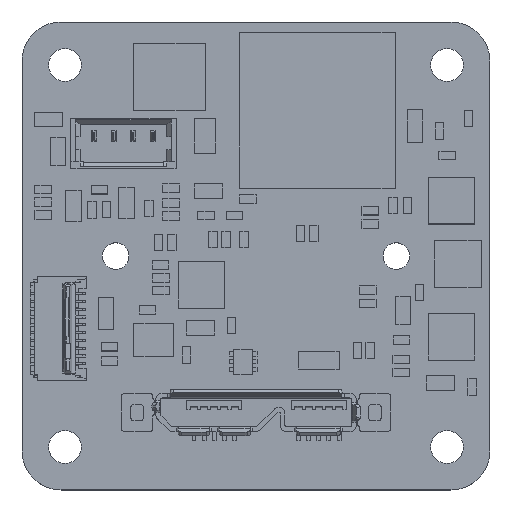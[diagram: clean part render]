
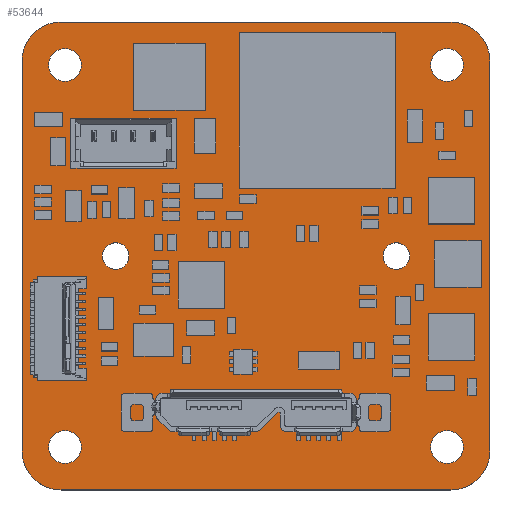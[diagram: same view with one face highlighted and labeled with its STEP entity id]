
A CAD part, top view. The second image highlights one B-rep face of the part: STEP entity #53644.
In plain terms, the highlighted planar face has unit normal (0, 0, 1).
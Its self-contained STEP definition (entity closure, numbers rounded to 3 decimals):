
#52849 = VERTEX_POINT('',#52850);
#52850 = CARTESIAN_POINT('',(0.,2.5,0.));
#52856 = EDGE_CURVE('',#52849,#52857,#52859,.T.);
#52857 = VERTEX_POINT('',#52858);
#52858 = CARTESIAN_POINT('',(2.5,0.,0.));
#52859 = CIRCLE('',#52860,2.499);
#52860 = AXIS2_PLACEMENT_3D('',#52861,#52862,#52863);
#52861 = CARTESIAN_POINT('',(2.499,2.499,0.));
#52862 = DIRECTION('',(0.,0.,1.));
#52863 = DIRECTION('',(-1.,0.,0.));
#52889 = EDGE_CURVE('',#52857,#52890,#52892,.T.);
#52890 = VERTEX_POINT('',#52891);
#52891 = CARTESIAN_POINT('',(27.5,0.,0.));
#52892 = LINE('',#52893,#52894);
#52893 = CARTESIAN_POINT('',(2.5,0.,0.));
#52894 = VECTOR('',#52895,1.);
#52895 = DIRECTION('',(1.,0.,0.));
#52920 = EDGE_CURVE('',#52890,#52921,#52923,.T.);
#52921 = VERTEX_POINT('',#52922);
#52922 = CARTESIAN_POINT('',(30.,2.5,0.));
#52923 = CIRCLE('',#52924,2.499);
#52924 = AXIS2_PLACEMENT_3D('',#52925,#52926,#52927);
#52925 = CARTESIAN_POINT('',(27.501,2.499,0.));
#52926 = DIRECTION('',(0.,0.,1.));
#52927 = DIRECTION('',(0.,-1.,0.));
#52953 = EDGE_CURVE('',#52921,#52954,#52956,.T.);
#52954 = VERTEX_POINT('',#52955);
#52955 = CARTESIAN_POINT('',(30.,27.5,0.));
#52956 = LINE('',#52957,#52958);
#52957 = CARTESIAN_POINT('',(30.,2.5,0.));
#52958 = VECTOR('',#52959,1.);
#52959 = DIRECTION('',(0.,1.,0.));
#52984 = EDGE_CURVE('',#52954,#52985,#52987,.T.);
#52985 = VERTEX_POINT('',#52986);
#52986 = CARTESIAN_POINT('',(27.5,30.,0.));
#52987 = CIRCLE('',#52988,2.499);
#52988 = AXIS2_PLACEMENT_3D('',#52989,#52990,#52991);
#52989 = CARTESIAN_POINT('',(27.501,27.501,0.));
#52990 = DIRECTION('',(0.,0.,1.));
#52991 = DIRECTION('',(1.,0.,0.));
#53017 = EDGE_CURVE('',#52985,#53018,#53020,.T.);
#53018 = VERTEX_POINT('',#53019);
#53019 = CARTESIAN_POINT('',(2.5,30.006,0.));
#53020 = LINE('',#53021,#53022);
#53021 = CARTESIAN_POINT('',(27.5,30.,0.));
#53022 = VECTOR('',#53023,1.);
#53023 = DIRECTION('',(-1.,0.,0.));
#53048 = EDGE_CURVE('',#53018,#53049,#53051,.T.);
#53049 = VERTEX_POINT('',#53050);
#53050 = CARTESIAN_POINT('',(0.,27.5,0.));
#53051 = CIRCLE('',#53052,2.496);
#53052 = AXIS2_PLACEMENT_3D('',#53053,#53054,#53055);
#53053 = CARTESIAN_POINT('',(2.496,27.51,0.));
#53054 = DIRECTION('',(0.,0.,1.));
#53055 = DIRECTION('',(0.002,1.,0.));
#53081 = EDGE_CURVE('',#53049,#52849,#53082,.T.);
#53082 = LINE('',#53083,#53084);
#53083 = CARTESIAN_POINT('',(0.,27.5,0.));
#53084 = VECTOR('',#53085,1.);
#53085 = DIRECTION('',(0.,-1.,0.));
#53105 = VERTEX_POINT('',#53106);
#53106 = CARTESIAN_POINT('',(3.8,2.75,0.));
#53112 = EDGE_CURVE('',#53105,#53105,#53113,.T.);
#53113 = CIRCLE('',#53114,1.05);
#53114 = AXIS2_PLACEMENT_3D('',#53115,#53116,#53117);
#53115 = CARTESIAN_POINT('',(2.75,2.75,0.));
#53116 = DIRECTION('',(0.,0.,1.));
#53117 = DIRECTION('',(1.,0.,0.));
#53138 = VERTEX_POINT('',#53139);
#53139 = CARTESIAN_POINT('',(6.85,15.,0.));
#53145 = EDGE_CURVE('',#53138,#53138,#53146,.T.);
#53146 = CIRCLE('',#53147,0.85);
#53147 = AXIS2_PLACEMENT_3D('',#53148,#53149,#53150);
#53148 = CARTESIAN_POINT('',(6.,15.,0.));
#53149 = DIRECTION('',(0.,0.,1.));
#53150 = DIRECTION('',(1.,0.,0.));
#53171 = VERTEX_POINT('',#53172);
#53172 = CARTESIAN_POINT('',(7.375,22.7,0.));
#53178 = EDGE_CURVE('',#53171,#53171,#53179,.T.);
#53179 = CIRCLE('',#53180,0.25);
#53180 = AXIS2_PLACEMENT_3D('',#53181,#53182,#53183);
#53181 = CARTESIAN_POINT('',(7.125,22.7,0.));
#53182 = DIRECTION('',(0.,0.,1.));
#53183 = DIRECTION('',(1.,0.,0.));
#53204 = VERTEX_POINT('',#53205);
#53205 = CARTESIAN_POINT('',(3.8,27.25,0.));
#53211 = EDGE_CURVE('',#53204,#53204,#53212,.T.);
#53212 = CIRCLE('',#53213,1.05);
#53213 = AXIS2_PLACEMENT_3D('',#53214,#53215,#53216);
#53214 = CARTESIAN_POINT('',(2.75,27.25,0.));
#53215 = DIRECTION('',(0.,0.,1.));
#53216 = DIRECTION('',(1.,0.,0.));
#53237 = VERTEX_POINT('',#53238);
#53238 = CARTESIAN_POINT('',(6.125,22.7,0.));
#53244 = EDGE_CURVE('',#53237,#53237,#53245,.T.);
#53245 = CIRCLE('',#53246,0.25);
#53246 = AXIS2_PLACEMENT_3D('',#53247,#53248,#53249);
#53247 = CARTESIAN_POINT('',(5.875,22.7,0.));
#53248 = DIRECTION('',(0.,0.,1.));
#53249 = DIRECTION('',(1.,0.,0.));
#53270 = VERTEX_POINT('',#53271);
#53271 = CARTESIAN_POINT('',(4.875,22.7,0.));
#53277 = EDGE_CURVE('',#53270,#53270,#53278,.T.);
#53278 = CIRCLE('',#53279,0.25);
#53279 = AXIS2_PLACEMENT_3D('',#53280,#53281,#53282);
#53280 = CARTESIAN_POINT('',(4.625,22.7,0.));
#53281 = DIRECTION('',(0.,0.,1.));
#53282 = DIRECTION('',(1.,0.,0.));
#53303 = VERTEX_POINT('',#53304);
#53304 = CARTESIAN_POINT('',(15.4,5.185,0.));
#53310 = EDGE_CURVE('',#53303,#53303,#53311,.T.);
#53311 = CIRCLE('',#53312,0.4);
#53312 = AXIS2_PLACEMENT_3D('',#53313,#53314,#53315);
#53313 = CARTESIAN_POINT('',(15.,5.185,0.));
#53314 = DIRECTION('',(0.,0.,1.));
#53315 = DIRECTION('',(1.,0.,0.));
#53336 = VERTEX_POINT('',#53337);
#53337 = CARTESIAN_POINT('',(28.3,2.75,0.));
#53343 = EDGE_CURVE('',#53336,#53336,#53344,.T.);
#53344 = CIRCLE('',#53345,1.05);
#53345 = AXIS2_PLACEMENT_3D('',#53346,#53347,#53348);
#53346 = CARTESIAN_POINT('',(27.25,2.75,0.));
#53347 = DIRECTION('',(0.,0.,1.));
#53348 = DIRECTION('',(1.,0.,0.));
#53369 = VERTEX_POINT('',#53370);
#53370 = CARTESIAN_POINT('',(14.425,5.85,0.));
#53376 = EDGE_CURVE('',#53369,#53377,#53379,.T.);
#53377 = VERTEX_POINT('',#53378);
#53378 = CARTESIAN_POINT('',(15.575,5.85,0.));
#53379 = LINE('',#53380,#53381);
#53380 = CARTESIAN_POINT('',(14.425,5.85,0.));
#53381 = VECTOR('',#53382,1.);
#53382 = DIRECTION('',(1.,0.,0.));
#53407 = EDGE_CURVE('',#53377,#53408,#53410,.T.);
#53408 = VERTEX_POINT('',#53409);
#53409 = CARTESIAN_POINT('',(15.575,6.3,0.));
#53410 = CIRCLE('',#53411,0.225);
#53411 = AXIS2_PLACEMENT_3D('',#53412,#53413,#53414);
#53412 = CARTESIAN_POINT('',(15.575,6.075,0.));
#53413 = DIRECTION('',(0.,0.,1.));
#53414 = DIRECTION('',(0.,-1.,0.));
#53440 = EDGE_CURVE('',#53408,#53441,#53443,.T.);
#53441 = VERTEX_POINT('',#53442);
#53442 = CARTESIAN_POINT('',(14.425,6.3,0.));
#53443 = LINE('',#53444,#53445);
#53444 = CARTESIAN_POINT('',(15.575,6.3,0.));
#53445 = VECTOR('',#53446,1.);
#53446 = DIRECTION('',(-1.,0.,0.));
#53471 = EDGE_CURVE('',#53441,#53369,#53472,.T.);
#53472 = CIRCLE('',#53473,0.225);
#53473 = AXIS2_PLACEMENT_3D('',#53474,#53475,#53476);
#53474 = CARTESIAN_POINT('',(14.425,6.075,0.));
#53475 = DIRECTION('',(0.,0.,1.));
#53476 = DIRECTION('',(0.,1.,0.));
#53497 = VERTEX_POINT('',#53498);
#53498 = CARTESIAN_POINT('',(8.625,22.7,0.));
#53504 = EDGE_CURVE('',#53497,#53497,#53505,.T.);
#53505 = CIRCLE('',#53506,0.25);
#53506 = AXIS2_PLACEMENT_3D('',#53507,#53508,#53509);
#53507 = CARTESIAN_POINT('',(8.375,22.7,0.));
#53508 = DIRECTION('',(0.,0.,1.));
#53509 = DIRECTION('',(1.,0.,0.));
#53530 = VERTEX_POINT('',#53531);
#53531 = CARTESIAN_POINT('',(24.85,15.,0.));
#53537 = EDGE_CURVE('',#53530,#53530,#53538,.T.);
#53538 = CIRCLE('',#53539,0.85);
#53539 = AXIS2_PLACEMENT_3D('',#53540,#53541,#53542);
#53540 = CARTESIAN_POINT('',(24.,15.,0.));
#53541 = DIRECTION('',(0.,0.,1.));
#53542 = DIRECTION('',(1.,0.,0.));
#53563 = VERTEX_POINT('',#53564);
#53564 = CARTESIAN_POINT('',(28.3,27.25,0.));
#53570 = EDGE_CURVE('',#53563,#53563,#53571,.T.);
#53571 = CIRCLE('',#53572,1.05);
#53572 = AXIS2_PLACEMENT_3D('',#53573,#53574,#53575);
#53573 = CARTESIAN_POINT('',(27.25,27.25,0.));
#53574 = DIRECTION('',(0.,0.,1.));
#53575 = DIRECTION('',(1.,0.,0.));
#53644 = ADVANCED_FACE('',(#53645,#53655,#53658,#53661,#53664,#53667,
    #53670,#53673,#53676,#53679,#53685,#53688,#53691),#53694,.F.);
#53645 = FACE_BOUND('',#53646,.T.);
#53646 = EDGE_LOOP('',(#53647,#53648,#53649,#53650,#53651,#53652,#53653,
    #53654));
#53647 = ORIENTED_EDGE('',*,*,#52856,.T.);
#53648 = ORIENTED_EDGE('',*,*,#52889,.T.);
#53649 = ORIENTED_EDGE('',*,*,#52920,.T.);
#53650 = ORIENTED_EDGE('',*,*,#52953,.T.);
#53651 = ORIENTED_EDGE('',*,*,#52984,.T.);
#53652 = ORIENTED_EDGE('',*,*,#53017,.T.);
#53653 = ORIENTED_EDGE('',*,*,#53048,.T.);
#53654 = ORIENTED_EDGE('',*,*,#53081,.T.);
#53655 = FACE_BOUND('',#53656,.F.);
#53656 = EDGE_LOOP('',(#53657));
#53657 = ORIENTED_EDGE('',*,*,#53112,.T.);
#53658 = FACE_BOUND('',#53659,.F.);
#53659 = EDGE_LOOP('',(#53660));
#53660 = ORIENTED_EDGE('',*,*,#53145,.T.);
#53661 = FACE_BOUND('',#53662,.F.);
#53662 = EDGE_LOOP('',(#53663));
#53663 = ORIENTED_EDGE('',*,*,#53178,.T.);
#53664 = FACE_BOUND('',#53665,.F.);
#53665 = EDGE_LOOP('',(#53666));
#53666 = ORIENTED_EDGE('',*,*,#53211,.T.);
#53667 = FACE_BOUND('',#53668,.F.);
#53668 = EDGE_LOOP('',(#53669));
#53669 = ORIENTED_EDGE('',*,*,#53244,.T.);
#53670 = FACE_BOUND('',#53671,.F.);
#53671 = EDGE_LOOP('',(#53672));
#53672 = ORIENTED_EDGE('',*,*,#53277,.T.);
#53673 = FACE_BOUND('',#53674,.F.);
#53674 = EDGE_LOOP('',(#53675));
#53675 = ORIENTED_EDGE('',*,*,#53310,.T.);
#53676 = FACE_BOUND('',#53677,.F.);
#53677 = EDGE_LOOP('',(#53678));
#53678 = ORIENTED_EDGE('',*,*,#53343,.T.);
#53679 = FACE_BOUND('',#53680,.F.);
#53680 = EDGE_LOOP('',(#53681,#53682,#53683,#53684));
#53681 = ORIENTED_EDGE('',*,*,#53376,.T.);
#53682 = ORIENTED_EDGE('',*,*,#53407,.T.);
#53683 = ORIENTED_EDGE('',*,*,#53440,.T.);
#53684 = ORIENTED_EDGE('',*,*,#53471,.T.);
#53685 = FACE_BOUND('',#53686,.F.);
#53686 = EDGE_LOOP('',(#53687));
#53687 = ORIENTED_EDGE('',*,*,#53504,.T.);
#53688 = FACE_BOUND('',#53689,.F.);
#53689 = EDGE_LOOP('',(#53690));
#53690 = ORIENTED_EDGE('',*,*,#53537,.T.);
#53691 = FACE_BOUND('',#53692,.F.);
#53692 = EDGE_LOOP('',(#53693));
#53693 = ORIENTED_EDGE('',*,*,#53570,.T.);
#53694 = PLANE('',#53695);
#53695 = AXIS2_PLACEMENT_3D('',#53696,#53697,#53698);
#53696 = CARTESIAN_POINT('',(0.,2.5,0.));
#53697 = DIRECTION('',(0.,0.,-1.));
#53698 = DIRECTION('',(-1.,0.,0.));
